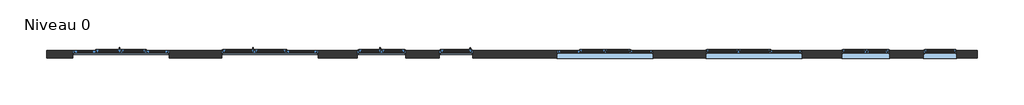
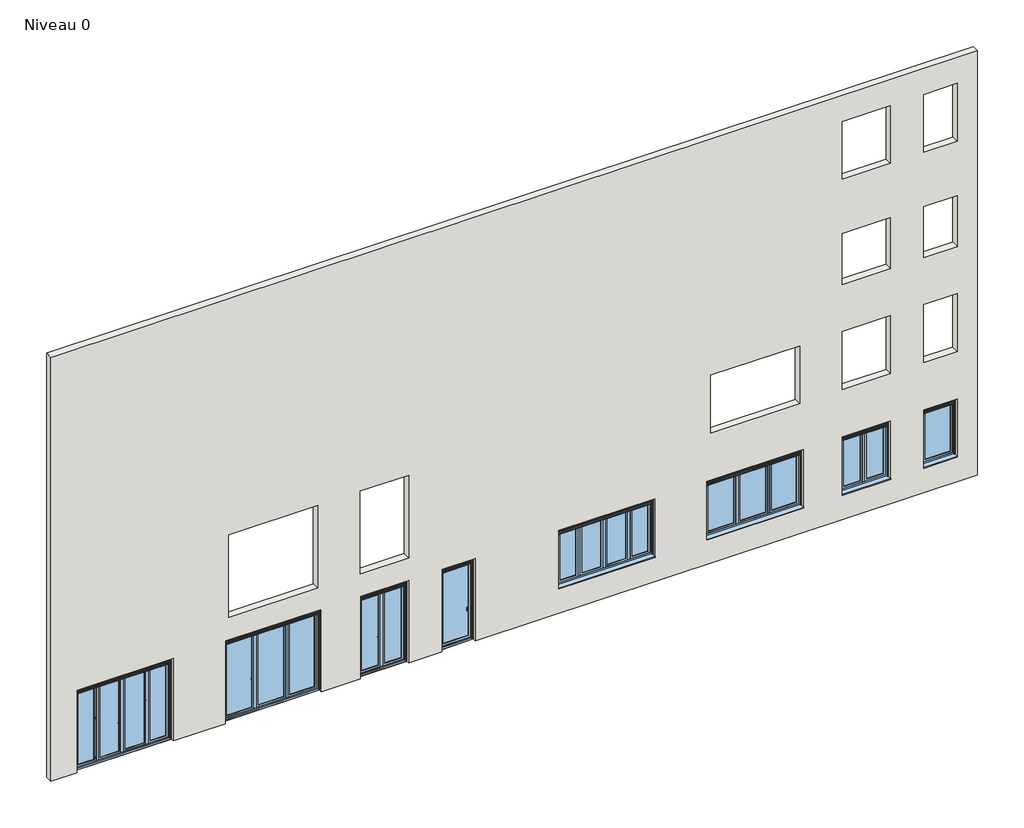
# One storey: 8 windows, 1 wall.
"""IFC4 building model written with IfcOpenShell, lengths in millimetres."""

from ifc_helpers import new_model, si_unit, frame, origin, place, context, project, spatial, polyline, outline, extrude, transform, mapped, element, save
from components import window_a7aff2f7, window_6b0d1190, window_2f7a2a9f, window_d9ff698f, window_1_of1_enr_pvc_alu_93b9386a, window_2_of2_enr_pvc_alu_a784acc1, window_21_pf1_enr_pvc_alu_96f1f04a, window_22_pf2_enr_pvc_alu_eefa80e3

model = new_model("IFC4")

# Units and contexts
model_context = context("Model", 3, world=origin())
ifc_project = project(units=[si_unit("LENGTHUNIT", "METRE", prefix="MILLI")], contexts=[model_context])

# Site, building, storey
site = spatial("IfcSite", under=ifc_project)
building = spatial("IfcBuilding", under=site)
storey = spatial("IfcBuildingStorey", under=building, Name="Niveau 0", Elevation=0.0)

# Wall
placement = place(None, origin())
element("IfcWall", 1, ObjectType="Générique - Ext. 200 mm", at=placement, inside=storey, context=model_context, shape_type="SweptSolid", body=[
    extrude(outline(polyline([(0.0, -375.5995417), (12100.0, -375.5995417), (12100.0, -25375.5995417), (0.0, -25375.5995417), (0.0, -24675.5995417), (2360.0, -24675.5995417), (2360.0, -22075.5995417), (0.0, -22075.5995417), (0.0, -20675.5995417), (2360.0, -20675.5995417), (2360.0, -18075.5995417), (0.0, -18075.5995417), (0.0, -17025.5995417), (2360.0, -17025.5995417), (2360.0, -15725.5995417), (0.0, -15725.5995417), (0.0, -14825.5995417), (2360.0, -14825.5995417), (2360.0, -13925.5995417), (0.0, -13925.5995417), (0.0, -375.5995417)]), holes=[polyline([(2360.0, -925.5995417), (710.0, -925.5995417), (710.0, -1825.5995417), (2360.0, -1825.5995417), (2360.0, -925.5995417)]), polyline([(2360.0, -2725.5995417), (710.0, -2725.5995417), (710.0, -4025.5995417), (2360.0, -4025.5995417), (2360.0, -2725.5995417)]), polyline([(5360.0, -925.5995417), (3710.0, -925.5995417), (3710.0, -1825.5995417), (5360.0, -1825.5995417), (5360.0, -925.5995417)]), polyline([(2360.0, -5075.5995417), (710.0, -5075.5995417), (710.0, -7675.5995417), (2360.0, -7675.5995417), (2360.0, -5075.5995417)]), polyline([(5360.0, -2725.5995417), (3710.0, -2725.5995417), (3710.0, -4025.5995417), (5360.0, -4025.5995417), (5360.0, -2725.5995417)]), polyline([(8160.0, -925.5995417), (6710.0, -925.5995417), (6710.0, -1825.5995417), (8160.0, -1825.5995417), (8160.0, -925.5995417)]), polyline([(8160.0, -2725.5995417), (6710.0, -2725.5995417), (6710.0, -4025.5995417), (8160.0, -4025.5995417), (8160.0, -2725.5995417)]), polyline([(5360.0, -5175.5995417), (3710.0, -5175.5995417), (3710.0, -7575.5995417), (5360.0, -7575.5995417), (5360.0, -5175.5995417)]), polyline([(2360.0, -9075.5995417), (710.0, -9075.5995417), (710.0, -11675.5995417), (2360.0, -11675.5995417), (2360.0, -9075.5995417)]), polyline([(11360.0, -925.5995417), (9710.0, -925.5995417), (9710.0, -1825.5995417), (11360.0, -1825.5995417), (11360.0, -925.5995417)]), polyline([(11360.0, -2725.5995417), (9710.0, -2725.5995417), (9710.0, -4025.5995417), (11360.0, -4025.5995417), (11360.0, -2725.5995417)]), polyline([(5360.0, -15725.5995417), (3000.0, -15725.5995417), (3000.0, -17025.5995417), (5360.0, -17025.5995417), (5360.0, -15725.5995417)]), polyline([(5360.0, -18175.5995417), (3000.0, -18175.5995417), (3000.0, -20575.5995417), (5360.0, -20575.5995417), (5360.0, -18175.5995417)])]), frame((0.0, -47.2429257, 0.0), z_axis=(0.0, 1.0, 0.0), x_axis=(0.0, 0.0, 1.0)), (0.0, 0.0, 1.0), 200.0),
])

# Windows
window_shape = window_a7aff2f7(model_context)
element("IfcWindow", 2, ObjectType="4. OF2 + Fixe à G ENR PVC-ALU : 260X165 (LXH) cm", at=placement, inside=storey, context=model_context, shape_type="MappedRepresentation", body=[
    mapped(window_shape, transform((-6375.5995417, 52.7570743, -90.0), x_axis=(-1.0, 0.0, 0.0), y_axis=(0.0, -1.0, 0.0), z_axis=(0.0, 0.0, 1.0))),
])
window_2_shape = window_6b0d1190(model_context)
element("IfcWindow", 3, ObjectType="9. OF2 + 2 Fixes à G et à D ENR PVC-ALU : 260X165 (LXH) cm", at=placement, inside=storey, context=model_context, shape_type="MappedRepresentation", body=[
    mapped(window_2_shape, transform((-10375.5995417, 52.7570743, -90.0), x_axis=(-1.0, 0.0, 0.0), y_axis=(0.0, -1.0, 0.0), z_axis=(0.0, 0.0, 1.0))),
])
window_3_shape = window_2f7a2a9f(model_context)
element("IfcWindow", 4, ObjectType="24. PF2 + Fixe à G ENR PVC-ALU : 260X236 (LXH) cm", at=placement, inside=storey, context=model_context, shape_type="MappedRepresentation", body=[
    mapped(window_3_shape, transform((-19375.5995417, 52.7570743, 0.0), x_axis=(-1.0, 0.0, 0.0), y_axis=(0.0, -1.0, 0.0), z_axis=(0.0, 0.0, 1.0))),
])
window_4_shape = window_d9ff698f(model_context)
element("IfcWindow", 5, ObjectType="26. PF2 + 2 Fixes à G et à D ENR PVC-ALU : 260X236 (LXH) cm", at=placement, inside=storey, context=model_context, shape_type="MappedRepresentation", body=[
    mapped(window_4_shape, transform((-23375.5995417, 52.7570743, 0.0), x_axis=(-1.0, 0.0, 0.0), y_axis=(0.0, -1.0, 0.0), z_axis=(0.0, 0.0, 1.0))),
])
window_1_of1_enr_pvc_alu_shape = window_1_of1_enr_pvc_alu_93b9386a(model_context)
element("IfcWindow", 6, ObjectType="1. OF1 ENR PVC-ALU : 130X165 (LXH) cm", at=placement, inside=storey, context=model_context, shape_type="MappedRepresentation", body=[
    mapped(window_1_of1_enr_pvc_alu_shape, transform((-1375.5995417, 52.7570743, -90.0), x_axis=(-1.0, 0.0, 0.0), y_axis=(0.0, -1.0, 0.0), z_axis=(0.0, 0.0, 1.0))),
])
window_2_of2_enr_pvc_alu_shape = window_2_of2_enr_pvc_alu_a784acc1(model_context)
element("IfcWindow", 7, ObjectType="2. OF2 ENR PVC-ALU : 130X165 (LXH) cm", at=placement, inside=storey, context=model_context, shape_type="MappedRepresentation", body=[
    mapped(window_2_of2_enr_pvc_alu_shape, transform((-3375.5995417, 52.7570743, -90.0), x_axis=(-1.0, 0.0, 0.0), y_axis=(0.0, -1.0, 0.0), z_axis=(0.0, 0.0, 1.0))),
])
window_21_pf1_enr_pvc_alu_shape = window_21_pf1_enr_pvc_alu_96f1f04a(model_context)
element("IfcWindow", 8, ObjectType="21. PF1 ENR PVC-ALU : 130X236 (LXH) cm", at=placement, inside=storey, context=model_context, shape_type="MappedRepresentation", body=[
    mapped(window_21_pf1_enr_pvc_alu_shape, transform((-14375.5995417, 52.7570743, 0.0), x_axis=(-1.0, 0.0, 0.0), y_axis=(0.0, -1.0, 0.0), z_axis=(0.0, 0.0, 1.0))),
])
window_22_pf2_enr_pvc_alu_shape = window_22_pf2_enr_pvc_alu_eefa80e3(model_context)
element("IfcWindow", 9, ObjectType="22. PF2 ENR PVC-ALU : 130X236 (LXH) cm", at=placement, inside=storey, context=model_context, shape_type="MappedRepresentation", body=[
    mapped(window_22_pf2_enr_pvc_alu_shape, transform((-16375.5995417, 52.7570743, 0.0), x_axis=(-1.0, 0.0, 0.0), y_axis=(0.0, -1.0, 0.0), z_axis=(0.0, 0.0, 1.0))),
])

save(model, "model.ifc")
